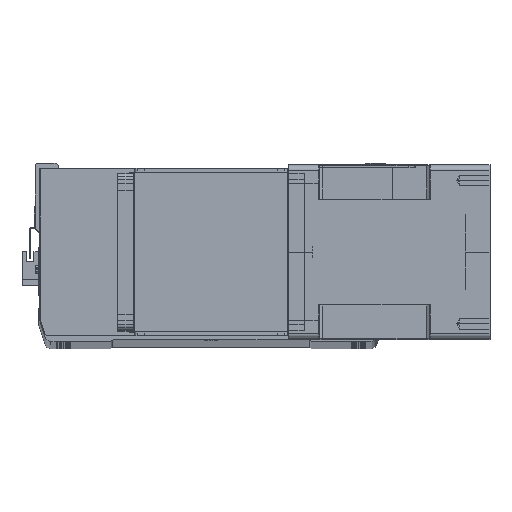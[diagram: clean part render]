
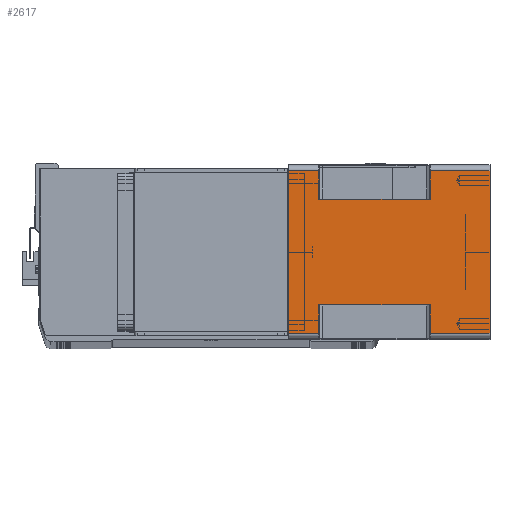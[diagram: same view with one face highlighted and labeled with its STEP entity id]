
A CAD part, top view. The second image highlights one B-rep face of the part: STEP entity #2617.
In plain terms, the highlighted planar face has unit normal (0, 0, 1) as drawn and (1, 0, 0) by its records, which use the part's own axes.
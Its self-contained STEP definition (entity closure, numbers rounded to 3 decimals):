
#330 = VECTOR ( 'NONE', #32026, 1000. ) ;
#663 = ORIENTED_EDGE ( 'NONE', *, *, #26215, .F. ) ;
#969 = VECTOR ( 'NONE', #8755, 1000. ) ;
#1209 = VERTEX_POINT ( 'NONE', #3069 ) ;
#1232 = VERTEX_POINT ( 'NONE', #2813 ) ;
#1467 = VERTEX_POINT ( 'NONE', #4839 ) ;
#1695 = VECTOR ( 'NONE', #30054, 1000. ) ;
#1696 = VECTOR ( 'NONE', #10939, 1000. ) ;
#1811 = CARTESIAN_POINT ( 'NONE',  ( 71., -43., -24.5 ) ) ;
#1903 = ORIENTED_EDGE ( 'NONE', *, *, #12416, .T. ) ;
#2340 = CARTESIAN_POINT ( 'NONE',  ( 71., -43., -164. ) ) ;
#2377 = EDGE_LOOP ( 'NONE', ( #663, #30495, #31194, #11403, #10339, #4133, #8199, #13970, #12778, #6937, #27733, #1903 ) ) ;
#2539 = CARTESIAN_POINT ( 'NONE',  ( 71., 43., -164. ) ) ;
#2617 = ADVANCED_FACE ( 'NONE', ( #8036 ), #25510, .T. ) ;
#2813 = CARTESIAN_POINT ( 'NONE',  ( 71., 43., -24.5 ) ) ;
#2815 = VERTEX_POINT ( 'NONE', #29435 ) ;
#3069 = CARTESIAN_POINT ( 'NONE',  ( 71., -66., -24.5 ) ) ;
#4133 = ORIENTED_EDGE ( 'NONE', *, *, #27047, .T. ) ;
#4523 = CARTESIAN_POINT ( 'NONE',  ( 71., -66., -164. ) ) ;
#4839 = CARTESIAN_POINT ( 'NONE',  ( 71., -66., 0. ) ) ;
#5094 = DIRECTION ( 'NONE',  ( 0., 0., -1. ) ) ;
#5369 = CARTESIAN_POINT ( 'NONE',  ( 71., -66., -115.5 ) ) ;
#5518 = CARTESIAN_POINT ( 'NONE',  ( 71., -66., -115.5 ) ) ;
#5945 = VERTEX_POINT ( 'NONE', #27130 ) ;
#6937 = ORIENTED_EDGE ( 'NONE', *, *, #25629, .F. ) ;
#7017 = LINE ( 'NONE', #9463, #8723 ) ;
#7815 = DIRECTION ( 'NONE',  ( 0., 0., 1. ) ) ;
#8036 = FACE_OUTER_BOUND ( 'NONE', #2377, .T. ) ;
#8087 = LINE ( 'NONE', #31478, #18366 ) ;
#8199 = ORIENTED_EDGE ( 'NONE', *, *, #13658, .F. ) ;
#8396 = CARTESIAN_POINT ( 'NONE',  ( 71., -66., -24.5 ) ) ;
#8723 = VECTOR ( 'NONE', #28348, 1000. ) ;
#8755 = DIRECTION ( 'NONE',  ( 0., 1., 0. ) ) ;
#9173 = CARTESIAN_POINT ( 'NONE',  ( 71., -66., -164. ) ) ;
#9463 = CARTESIAN_POINT ( 'NONE',  ( 71., 43., -115.5 ) ) ;
#10339 = ORIENTED_EDGE ( 'NONE', *, *, #34610, .T. ) ;
#10939 = DIRECTION ( 'NONE',  ( 0., 0., 1. ) ) ;
#11112 = LINE ( 'NONE', #2340, #1696 ) ;
#11403 = ORIENTED_EDGE ( 'NONE', *, *, #32049, .T. ) ;
#11684 = CARTESIAN_POINT ( 'NONE',  ( 71., -66., -164. ) ) ;
#12414 = DIRECTION ( 'NONE',  ( 0., 0., 1. ) ) ;
#12416 = EDGE_CURVE ( 'NONE', #1209, #30947, #18333, .T. ) ;
#12778 = ORIENTED_EDGE ( 'NONE', *, *, #20177, .T. ) ;
#13136 = VERTEX_POINT ( 'NONE', #14394 ) ;
#13386 = VERTEX_POINT ( 'NONE', #11684 ) ;
#13658 = EDGE_CURVE ( 'NONE', #1232, #13136, #23844, .T. ) ;
#13815 = VECTOR ( 'NONE', #19178, 1000. ) ;
#13970 = ORIENTED_EDGE ( 'NONE', *, *, #18712, .T. ) ;
#14394 = CARTESIAN_POINT ( 'NONE',  ( 71., 43., -115.5 ) ) ;
#14522 = VERTEX_POINT ( 'NONE', #22054 ) ;
#15286 = CARTESIAN_POINT ( 'NONE',  ( 71., -43., -24.5 ) ) ;
#16570 = EDGE_CURVE ( 'NONE', #2815, #19867, #25732, .T. ) ;
#16686 = CARTESIAN_POINT ( 'NONE',  ( 71., -66., -164. ) ) ;
#17283 = DIRECTION ( 'NONE',  ( 0., 1., 0. ) ) ;
#17901 = DIRECTION ( 'NONE',  ( 1., 0., 0. ) ) ;
#18333 = LINE ( 'NONE', #1811, #330 ) ;
#18366 = VECTOR ( 'NONE', #12414, 1000. ) ;
#18712 = EDGE_CURVE ( 'NONE', #1232, #34983, #25449, .T. ) ;
#18982 = LINE ( 'NONE', #22073, #13815 ) ;
#19027 = EDGE_CURVE ( 'NONE', #1209, #1467, #30963, .T. ) ;
#19178 = DIRECTION ( 'NONE',  ( 0., 0., 1. ) ) ;
#19867 = VERTEX_POINT ( 'NONE', #5518 ) ;
#20177 = EDGE_CURVE ( 'NONE', #34983, #14522, #8087, .T. ) ;
#20681 = VECTOR ( 'NONE', #33487, 1000. ) ;
#21078 = LINE ( 'NONE', #25044, #24514 ) ;
#21716 = CARTESIAN_POINT ( 'NONE',  ( 71., 66., -164. ) ) ;
#22054 = CARTESIAN_POINT ( 'NONE',  ( 71., 66., 0. ) ) ;
#22073 = CARTESIAN_POINT ( 'NONE',  ( 71., -66., -164. ) ) ;
#23813 = CARTESIAN_POINT ( 'NONE',  ( 71., 66., -115.5 ) ) ;
#23844 = LINE ( 'NONE', #2539, #28593 ) ;
#24514 = VECTOR ( 'NONE', #27846, 1000. ) ;
#25044 = CARTESIAN_POINT ( 'NONE',  ( 71., -66., 0. ) ) ;
#25449 = LINE ( 'NONE', #8396, #969 ) ;
#25510 = PLANE ( 'NONE',  #26337 ) ;
#25629 = EDGE_CURVE ( 'NONE', #1467, #14522, #21078, .T. ) ;
#25732 = LINE ( 'NONE', #5369, #1695 ) ;
#26028 = VERTEX_POINT ( 'NONE', #23813 ) ;
#26215 = EDGE_CURVE ( 'NONE', #2815, #30947, #11112, .T. ) ;
#26337 = AXIS2_PLACEMENT_3D ( 'NONE', #4523, #17901, #34465 ) ;
#26699 = CARTESIAN_POINT ( 'NONE',  ( 71., 66., -24.5 ) ) ;
#26737 = VECTOR ( 'NONE', #17283, 1000. ) ;
#27047 = EDGE_CURVE ( 'NONE', #26028, #13136, #7017, .T. ) ;
#27130 = CARTESIAN_POINT ( 'NONE',  ( 71., 66., -164. ) ) ;
#27239 = EDGE_CURVE ( 'NONE', #13386, #19867, #18982, .T. ) ;
#27733 = ORIENTED_EDGE ( 'NONE', *, *, #19027, .F. ) ;
#27846 = DIRECTION ( 'NONE',  ( 0., 1., 0. ) ) ;
#28348 = DIRECTION ( 'NONE',  ( 0., -1., 0. ) ) ;
#28403 = VECTOR ( 'NONE', #7815, 1000. ) ;
#28593 = VECTOR ( 'NONE', #5094, 1000. ) ;
#29435 = CARTESIAN_POINT ( 'NONE',  ( 71., -43., -115.5 ) ) ;
#30054 = DIRECTION ( 'NONE',  ( 0., -1., 0. ) ) ;
#30495 = ORIENTED_EDGE ( 'NONE', *, *, #16570, .T. ) ;
#30947 = VERTEX_POINT ( 'NONE', #15286 ) ;
#30955 = LINE ( 'NONE', #21716, #28403 ) ;
#30963 = LINE ( 'NONE', #16686, #20681 ) ;
#31194 = ORIENTED_EDGE ( 'NONE', *, *, #27239, .F. ) ;
#31408 = LINE ( 'NONE', #9173, #26737 ) ;
#31478 = CARTESIAN_POINT ( 'NONE',  ( 71., 66., -164. ) ) ;
#32026 = DIRECTION ( 'NONE',  ( 0., 1., 0. ) ) ;
#32049 = EDGE_CURVE ( 'NONE', #13386, #5945, #31408, .T. ) ;
#33487 = DIRECTION ( 'NONE',  ( 0., 0., 1. ) ) ;
#34465 = DIRECTION ( 'NONE',  ( 0., 1., 0. ) ) ;
#34610 = EDGE_CURVE ( 'NONE', #5945, #26028, #30955, .T. ) ;
#34983 = VERTEX_POINT ( 'NONE', #26699 ) ;
